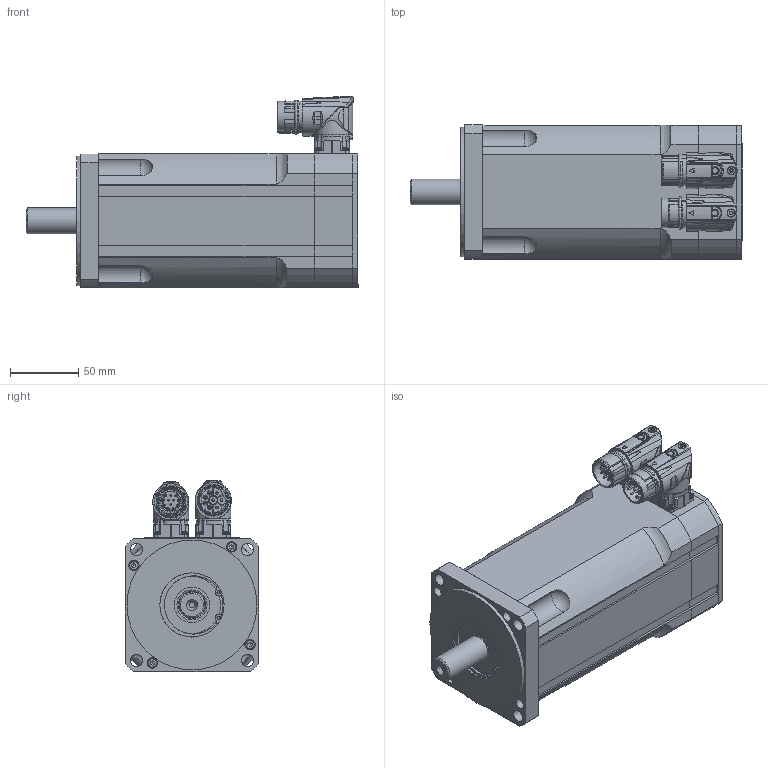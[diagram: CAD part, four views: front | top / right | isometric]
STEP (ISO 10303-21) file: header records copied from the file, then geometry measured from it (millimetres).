
FILE_DESCRIPTION(/* description */ (''),/* implementation_level */ '2;1');
FILE_NAME(/* name */ 'MR6348-Ux-Nxx-G01-A0D-M0-P0.stp',/* time_stamp */ '2020-09-03T14:07:21+02:00',/* author */ (''),/* organization */ (''),/* preprocessor_version */ 'ST-DEVELOPER v18.1',/* originating_system */ 'Autodesk Inventor 2021',/* authorisation */ '');
FILE_SCHEMA (('AUTOMOTIVE_DESIGN { 1 0 10303 214 3 1 1 }'));
Products named in the file (9): MR6348_Ux_Nxx_G01_A0D_M0_P0; MR6348_G01_A0D_M0_front; MR6348_G01_A0D_M0_P0_rear; BED_0201_8-polig, Stift; Basis 2; Basis 11; AED_0201_12-polig, Stift; 124888; 127323
Assembly tree (8 placements, depth 3):
  MR6348_Ux_Nxx_G01_A0D_M0_P0
    MR6348_G01_A0D_M0_front
    MR6348_G01_A0D_M0_P0_rear
    BED_0201_8-polig, Stift
      Basis 2
      Basis 11
    AED_0201_12-polig, Stift
      124888
      127323
Bounding box: 243 x 98.04 x 140.38 mm (x, y, z)
Volume: 1869947.3 mm3; surface area: 143198.9 mm2
Topology: 6 solids, 9 shells, 1782 faces, 4840 edges, 3113 vertices
Faces by surface type: cylinder 782, plane 520, bspline 256, cone 110, torus 76, sphere 38
Full cylindrical faces by diameter (mm): 1 x16, 1.18 x12, 1.2 x12, 1.3 x4, 2 x4, 2.013 x2, 2.208 x8, 2.4 x8, 2.5 x10, 2.7 x4, 3 x5, 3.1 x4, 3.2 x1, 3.95 x4, 4 x4, 4.134 x1, 4.3 x4, 4.5 x2, 5 x8, 5.5 x2, 5.8 x1, 5.9 x2, 6.8 x1, 7 x4, 7.5 x4, 8 x4, 8.5 x4, 9 x4, 15.2 x1, 16 x1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
Entity records: 71517 total; most frequent: CARTESIAN_POINT 24950, ORIENTED_EDGE 9584, DIRECTION 9362, EDGE_CURVE 4792, AXIS2_PLACEMENT_3D 3878, VERTEX_POINT 3113, CIRCLE 2128, EDGE_LOOP 1977
